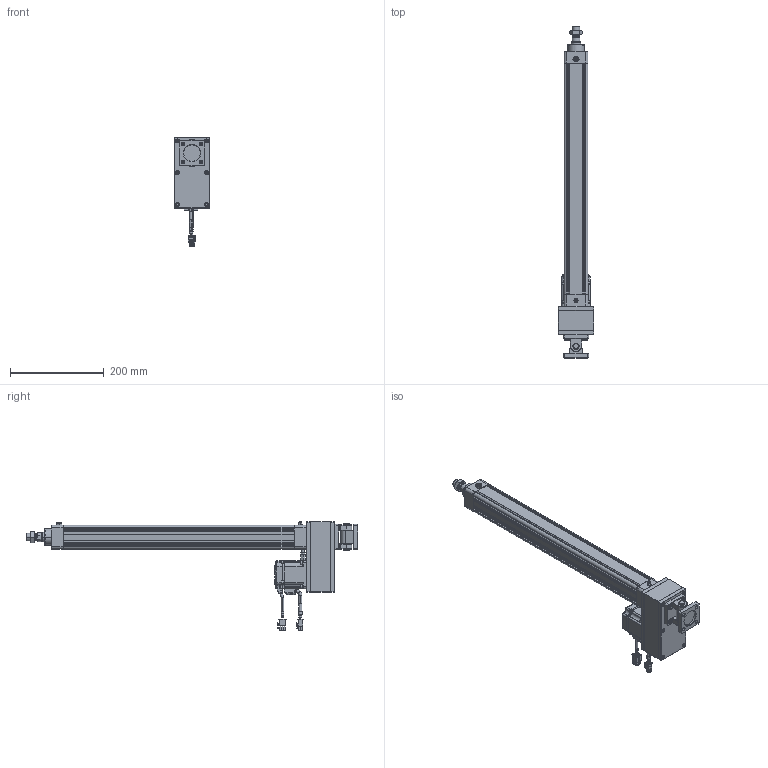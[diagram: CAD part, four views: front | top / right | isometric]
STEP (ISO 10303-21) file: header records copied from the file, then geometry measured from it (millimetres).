
FILE_DESCRIPTION((''),'2;1');
FILE_NAME('HE40-D-100_ASM','2020-05-27T',('ASUS20200'),(''),'CREO PARAMETRIC BY PTC INC, 2014190','CREO PARAMETRIC BY PTC INC, 2014190','');
FILE_SCHEMA(('CONFIG_CONTROL_DESIGN'));
Products named in the file (37): HE40-D-P-001-X1; HE40-D-P-002-X1; HE40-D-P-003-X1; 6200ZZ; SLM-01; YZ-M6X1; JDB202820; HE40-P-010-X1-200W; _MHMF022L1A2; _CABLE_MOTOR_BOTTOM_03; _CABLE_MOTOR_TOP_03; _MOTOR_CONNECTOR_2; _CABLE_BRAKE_BOTTOM_03; _CABLE_BRAKE_TOP_03; _MHMF_CONNECTOR_9_PIN_A6; MHMF022L1A2M2_1_ASM; MHMF022L1A2M2_ASM; JX5X5X20; TD-5; M5X20; LM-M6X1; M6X25; LM-M6-15; M6; HE40-P-012-X2; HE40-P-014-X1; M4X65; F-SE40CB; F-SE40CB-XD; F-SE40CB_ASM; F-SE40CA; M6X16; HE40-D-P-005-X1; HE40-D-P-004-X1; HE40-D-P-008-X1; LGLM-M6-22; HE40-D-100_ASM
Assembly tree (56 placements, depth 4):
  HE40-D-100_ASM
    HE40-D-P-001-X1
    HE40-D-P-002-X1
    HE40-D-P-003-X1
    6200ZZ
    SLM-01
    YZ-M6X1
    JDB202820
    HE40-P-010-X1-200W
    MHMF022L1A2M2_ASM
      MHMF022L1A2M2_1_ASM
        _MHMF022L1A2
        _CABLE_MOTOR_BOTTOM_03
        _CABLE_MOTOR_TOP_03
        _MOTOR_CONNECTOR_2
        _CABLE_BRAKE_BOTTOM_03
        _CABLE_BRAKE_TOP_03
        _MHMF_CONNECTOR_9_PIN_A6
    JX5X5X20
    TD-5  x4
    M5X20  x4
    LM-M6X1  x4
    M6X25
    LM-M6-15
    M6
    HE40-P-012-X2
    HE40-P-014-X1
    M4X65  x6
    F-SE40CB_ASM
      F-SE40CB
      F-SE40CB-XD
    F-SE40CA
    M6X16  x4
    HE40-D-P-005-X1
    HE40-D-P-004-X1
    HE40-D-P-008-X1
    LGLM-M6-22  x4
Bounding box: 75 x 707.5 x 232.7 mm (x, y, z)
Volume: 1260669 mm3; surface area: 482225.4 mm2
Topology: 53 solids, 84 shells, 3131 faces, 7428 edges, 4563 vertices
Faces by surface type: plane 1301, cylinder 866, cone 764, torus 162, sphere 34, bspline 4
Entity records: 80156 total; most frequent: CARTESIAN_POINT 15181, DIRECTION 14277, ORIENTED_EDGE 12716, EDGE_CURVE 6414, AXIS2_PLACEMENT_3D 5352, VERTEX_POINT 3977, VECTOR 3573, LINE 3573
